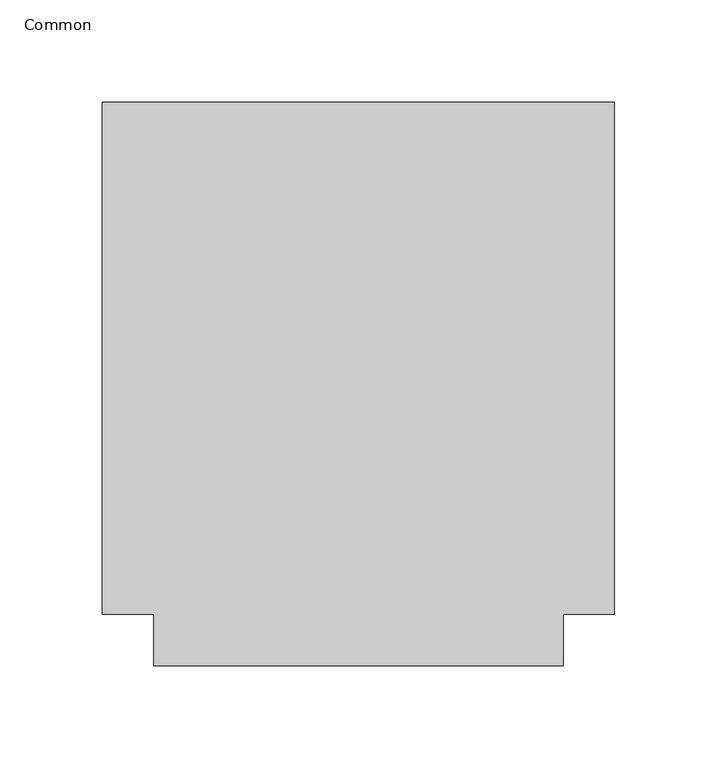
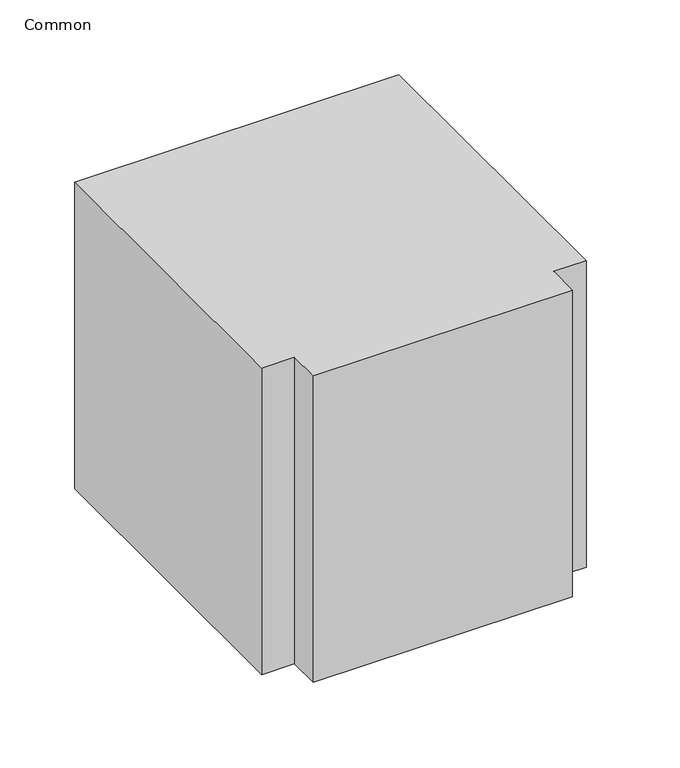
"""IFC4 building model written with IfcOpenShell, lengths in millimetres: duct fitting geometry, 022_角形片側分岐 : Common."""

from ifc_helpers import new_model, si_unit, frame, origin, place, context, project, spatial, polyline, outline, extrude, source, transform, mapped, element, save


def common_0eabd6fe(model_context):
    return source(origin(), model_context, "Body", "SweptSolid", [
        extrude(outline(polyline([(-125.0, -125.0), (-125.0, 125.0), (125.0, 125.0), (125.0, -125.0), (100.0, -125.0), (100.0, -150.0), (-100.0, -150.0), (-100.0, -125.0), (-125.0, -125.0)])), frame((0.0, 0.0, -125.0), z_axis=(0.0, 0.0, 1.0), x_axis=(1.0, 0.0, 0.0)), (0.0, 0.0, 1.0), 250.0),
    ])


if __name__ == "__main__":
    model = new_model("IFC4")
    model_context = context("Model", 3, world=origin())
    ifc_project = project(units=[si_unit("LENGTHUNIT", "METRE", prefix="MILLI")], contexts=[model_context])
    site = spatial("IfcSite", under=ifc_project)
    building = spatial("IfcBuilding", under=site)
    placement = place(None, origin())
    common_shape = common_0eabd6fe(model_context)
    element("IfcDuctFitting", 1, ObjectType="022_角形片側分岐 : Common", at=placement, inside=building, context=model_context, shape_type="MappedRepresentation", body=[
        mapped(common_shape, transform((0.0, 0.0, 0.0), x_axis=(1.0, 0.0, 0.0), y_axis=(0.0, 1.0, 0.0), z_axis=(0.0, 0.0, 1.0))),
    ])
    save(model, "model.ifc")
